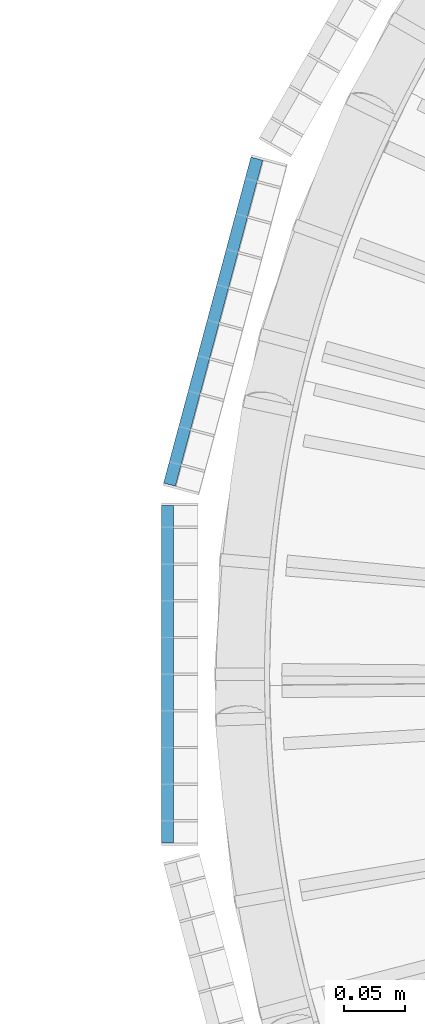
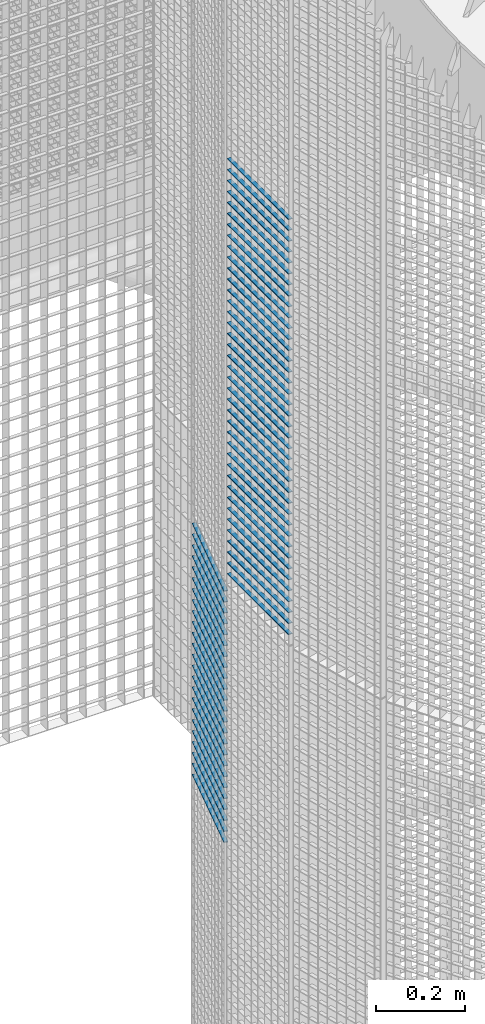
# One storey, part 199 of 1148: 63 beams, 2 elements without a shape of their own.
"""IFC2X3 building model written with IfcOpenShell, lengths in millimetres."""

from ifc_helpers import new_model, si_unit, frame, origin_with_axes, origin_2d_with_axis, place, context, subcontext, project, spatial, rectangle, extrude, material, type_object, element, aggregate, save


model = new_model("IFC2X3")

# Units and contexts
model_context = context("Model", 3, precision=1e-05, world=origin_with_axes())
body_context = subcontext(model_context, "Body", "Model", "MODEL_VIEW")
ifc_project = project(units=[si_unit("LENGTHUNIT", "METRE", prefix="MILLI"), si_unit("AREAUNIT", "SQUARE_METRE"), si_unit("VOLUMEUNIT", "CUBIC_METRE"), si_unit("MASSUNIT", "GRAM", prefix="KILO"), si_unit("TIMEUNIT", "SECOND"), si_unit("PLANEANGLEUNIT", "RADIAN"), si_unit("SOLIDANGLEUNIT", "STERADIAN"), si_unit("THERMODYNAMICTEMPERATUREUNIT", "DEGREE_CELSIUS"), si_unit("LUMINOUSINTENSITYUNIT", "LUMEN")], contexts=[model_context])

# Site, building, storey
site_placement = place(None, origin_with_axes())
site = spatial("IfcSite", under=ifc_project, at=site_placement, Name="Undefined", CompositionType="ELEMENT")
building_placement = place(site_placement, origin_with_axes())
building = spatial("IfcBuilding", under=site, at=building_placement, Name="Undefined", CompositionType="ELEMENT")
storey_placement = place(building_placement, origin_with_axes())
storey = spatial("IfcBuildingStorey", under=building, at=storey_placement, Name="Undefined", CompositionType="ELEMENT", Elevation=0.0)

# Assembly, beams
assembly_1_placement = place(storey_placement, origin_with_axes())
assembly_1 = element("IfcElementAssembly", 1, at=assembly_1_placement, inside=storey, Name="BORDURE", AssemblyPlace="NOTDEFINED", PredefinedType="NOTDEFINED")
ifc_material = material(Name="STEEL/S235JR")
beam_type = type_object("IfcBeamType", Name="PL2*10", PredefinedType="NOTDEFINED")
beam_1_placement = place(assembly_1_placement, frame((-1113.47999999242, 137.996003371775, 7170.0), z_axis=(-1.0, 0.0, 0.0), x_axis=(0.0, -1.0, 0.0)))
beam_1 = element("IfcBeam", 2, at=beam_1_placement, type_object=beam_type, material=ifc_material, Name="ENTRETOISE", context=body_context, shape_type="SweptSolid", body=[
    extrude(rectangle(XDim=2.0, YDim=10.0, at=origin_2d_with_axis()), frame((275.999999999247, 9.09494701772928e-13, 1.53210777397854e-14), z_axis=(-1.0, 0.0, 0.0), x_axis=(0.0, -1.0, 0.0)), (0.0, 0.0, 1.0), 276.0),
])
beam_2_placement = place(assembly_1_placement, frame((-1113.47999999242, 137.996003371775, 7140.0), z_axis=(-1.0, 0.0, 0.0), x_axis=(0.0, -1.0, 0.0)))
beam_2 = element("IfcBeam", 3, at=beam_2_placement, type_object=beam_type, material=ifc_material, Name="ENTRETOISE", context=body_context, shape_type="SweptSolid", body=[
    extrude(rectangle(XDim=2.0, YDim=10.0, at=origin_2d_with_axis()), frame((275.999999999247, 9.09494701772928e-13, 1.53210777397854e-14), z_axis=(-1.0, 0.0, 0.0), x_axis=(0.0, -1.0, 0.0)), (0.0, 0.0, 1.0), 276.0),
])
beam_3_placement = place(assembly_1_placement, frame((-1113.47999999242, 137.996003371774, 6720.0), z_axis=(-1.0, 0.0, 0.0), x_axis=(0.0, -1.0, 0.0)))
beam_3 = element("IfcBeam", 4, at=beam_3_placement, type_object=beam_type, material=ifc_material, Name="ENTRETOISE", context=body_context, shape_type="SweptSolid", body=[
    extrude(rectangle(XDim=2.0, YDim=10.0, at=origin_2d_with_axis()), frame((275.999999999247, 9.09494701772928e-13, 1.53210777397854e-14), z_axis=(-1.0, 0.0, 0.0), x_axis=(0.0, -1.0, 0.0)), (0.0, 0.0, 1.0), 276.0),
])
beam_4_placement = place(assembly_1_placement, frame((-1113.47999999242, 137.996003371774, 6690.0), z_axis=(-1.0, 0.0, 0.0), x_axis=(0.0, -1.0, 0.0)))
beam_4 = element("IfcBeam", 5, at=beam_4_placement, type_object=beam_type, material=ifc_material, Name="ENTRETOISE", context=body_context, shape_type="SweptSolid", body=[
    extrude(rectangle(XDim=2.0, YDim=10.0, at=origin_2d_with_axis()), frame((275.999999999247, 9.09494701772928e-13, 1.53210777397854e-14), z_axis=(-1.0, 0.0, 0.0), x_axis=(0.0, -1.0, 0.0)), (0.0, 0.0, 1.0), 276.0),
])
beam_5_placement = place(assembly_1_placement, frame((-1113.47999999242, 137.996003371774, 6750.0), z_axis=(-1.0, 0.0, 0.0), x_axis=(0.0, -1.0, 0.0)))
beam_5 = element("IfcBeam", 6, at=beam_5_placement, type_object=beam_type, material=ifc_material, Name="ENTRETOISE", context=body_context, shape_type="SweptSolid", body=[
    extrude(rectangle(XDim=2.0, YDim=10.0, at=origin_2d_with_axis()), frame((275.999999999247, 9.09494701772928e-13, 1.53210777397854e-14), z_axis=(-1.0, 0.0, 0.0), x_axis=(0.0, -1.0, 0.0)), (0.0, 0.0, 1.0), 276.0),
])
beam_6_placement = place(assembly_1_placement, frame((-1113.47999999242, 137.996003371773, 6660.0), z_axis=(-1.0, 0.0, 0.0), x_axis=(0.0, -1.0, 0.0)))
beam_6 = element("IfcBeam", 7, at=beam_6_placement, type_object=beam_type, material=ifc_material, Name="ENTRETOISE", context=body_context, shape_type="SweptSolid", body=[
    extrude(rectangle(XDim=2.0, YDim=10.0, at=origin_2d_with_axis()), frame((275.999999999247, 9.09494701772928e-13, 1.53210777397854e-14), z_axis=(-1.0, 0.0, 0.0), x_axis=(0.0, -1.0, 0.0)), (0.0, 0.0, 1.0), 276.0),
])
beam_7_placement = place(assembly_1_placement, frame((-1113.47999999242, 137.996003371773, 6630.0), z_axis=(-1.0, 0.0, 0.0), x_axis=(0.0, -1.0, 0.0)))
beam_7 = element("IfcBeam", 8, at=beam_7_placement, type_object=beam_type, material=ifc_material, Name="ENTRETOISE", context=body_context, shape_type="SweptSolid", body=[
    extrude(rectangle(XDim=2.0, YDim=10.0, at=origin_2d_with_axis()), frame((275.999999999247, 9.09494701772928e-13, 1.53210777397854e-14), z_axis=(-1.0, 0.0, 0.0), x_axis=(0.0, -1.0, 0.0)), (0.0, 0.0, 1.0), 276.0),
])
beam_8_placement = place(assembly_1_placement, frame((-1113.47999999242, 137.996003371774, 6780.0), z_axis=(-1.0, 0.0, 0.0), x_axis=(0.0, -1.0, 0.0)))
beam_8 = element("IfcBeam", 9, at=beam_8_placement, type_object=beam_type, material=ifc_material, Name="ENTRETOISE", context=body_context, shape_type="SweptSolid", body=[
    extrude(rectangle(XDim=2.0, YDim=10.0, at=origin_2d_with_axis()), frame((275.999999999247, 9.09494701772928e-13, 1.53210777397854e-14), z_axis=(-1.0, 0.0, 0.0), x_axis=(0.0, -1.0, 0.0)), (0.0, 0.0, 1.0), 276.0),
])
beam_9_placement = place(assembly_1_placement, frame((-1113.47999999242, 137.996003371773, 6600.0), z_axis=(-1.0, 0.0, 0.0), x_axis=(0.0, -1.0, 0.0)))
beam_9 = element("IfcBeam", 10, at=beam_9_placement, type_object=beam_type, material=ifc_material, Name="ENTRETOISE", context=body_context, shape_type="SweptSolid", body=[
    extrude(rectangle(XDim=2.0, YDim=10.0, at=origin_2d_with_axis()), frame((275.999999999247, 9.09494701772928e-13, 1.53210777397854e-14), z_axis=(-1.0, 0.0, 0.0), x_axis=(0.0, -1.0, 0.0)), (0.0, 0.0, 1.0), 276.0),
])
beam_10_placement = place(assembly_1_placement, frame((-1113.47999999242, 137.996003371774, 6810.0), z_axis=(-1.0, 0.0, 0.0), x_axis=(0.0, -1.0, 0.0)))
beam_10 = element("IfcBeam", 11, at=beam_10_placement, type_object=beam_type, material=ifc_material, Name="ENTRETOISE", context=body_context, shape_type="SweptSolid", body=[
    extrude(rectangle(XDim=2.0, YDim=10.0, at=origin_2d_with_axis()), frame((275.999999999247, 9.09494701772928e-13, 1.53210777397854e-14), z_axis=(-1.0, 0.0, 0.0), x_axis=(0.0, -1.0, 0.0)), (0.0, 0.0, 1.0), 276.0),
])
beam_11_placement = place(assembly_1_placement, frame((-1113.47999999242, 137.996003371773, 6570.0), z_axis=(-1.0, 0.0, 0.0), x_axis=(0.0, -1.0, 0.0)))
beam_11 = element("IfcBeam", 12, at=beam_11_placement, type_object=beam_type, material=ifc_material, Name="ENTRETOISE", context=body_context, shape_type="SweptSolid", body=[
    extrude(rectangle(XDim=2.0, YDim=10.0, at=origin_2d_with_axis()), frame((275.999999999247, 9.09494701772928e-13, 1.53210777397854e-14), z_axis=(-1.0, 0.0, 0.0), x_axis=(0.0, -1.0, 0.0)), (0.0, 0.0, 1.0), 276.0),
])
beam_12_placement = place(assembly_1_placement, frame((-1113.47999999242, 137.996003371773, 6540.0), z_axis=(-1.0, 0.0, 0.0), x_axis=(0.0, -1.0, 0.0)))
beam_12 = element("IfcBeam", 13, at=beam_12_placement, type_object=beam_type, material=ifc_material, Name="ENTRETOISE", context=body_context, shape_type="SweptSolid", body=[
    extrude(rectangle(XDim=2.0, YDim=10.0, at=origin_2d_with_axis()), frame((275.999999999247, 9.09494701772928e-13, 1.53210777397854e-14), z_axis=(-1.0, 0.0, 0.0), x_axis=(0.0, -1.0, 0.0)), (0.0, 0.0, 1.0), 276.0),
])
beam_13_placement = place(assembly_1_placement, frame((-1113.47999999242, 137.996003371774, 6840.0), z_axis=(-1.0, 0.0, 0.0), x_axis=(0.0, -1.0, 0.0)))
beam_13 = element("IfcBeam", 14, at=beam_13_placement, type_object=beam_type, material=ifc_material, Name="ENTRETOISE", context=body_context, shape_type="SweptSolid", body=[
    extrude(rectangle(XDim=2.0, YDim=10.0, at=origin_2d_with_axis()), frame((275.999999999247, 9.09494701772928e-13, 1.53210777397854e-14), z_axis=(-1.0, 0.0, 0.0), x_axis=(0.0, -1.0, 0.0)), (0.0, 0.0, 1.0), 276.0),
])
beam_14_placement = place(assembly_1_placement, frame((-1113.47999999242, 137.996003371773, 6510.0), z_axis=(-1.0, 0.0, 0.0), x_axis=(0.0, -1.0, 0.0)))
beam_14 = element("IfcBeam", 15, at=beam_14_placement, type_object=beam_type, material=ifc_material, Name="ENTRETOISE", context=body_context, shape_type="SweptSolid", body=[
    extrude(rectangle(XDim=2.0, YDim=10.0, at=origin_2d_with_axis()), frame((275.999999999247, 9.09494701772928e-13, 1.53210777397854e-14), z_axis=(-1.0, 0.0, 0.0), x_axis=(0.0, -1.0, 0.0)), (0.0, 0.0, 1.0), 276.0),
])
beam_15_placement = place(assembly_1_placement, frame((-1113.47999999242, 137.996003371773, 6480.0), z_axis=(-1.0, 0.0, 0.0), x_axis=(0.0, -1.0, 0.0)))
beam_15 = element("IfcBeam", 16, at=beam_15_placement, type_object=beam_type, material=ifc_material, Name="ENTRETOISE", context=body_context, shape_type="SweptSolid", body=[
    extrude(rectangle(XDim=2.0, YDim=10.0, at=origin_2d_with_axis()), frame((275.999999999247, 9.09494701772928e-13, 1.53210777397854e-14), z_axis=(-1.0, 0.0, 0.0), x_axis=(0.0, -1.0, 0.0)), (0.0, 0.0, 1.0), 276.0),
])
beam_16_placement = place(assembly_1_placement, frame((-1113.47999999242, 137.996003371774, 6870.0), z_axis=(-1.0, 0.0, 0.0), x_axis=(0.0, -1.0, 0.0)))
beam_16 = element("IfcBeam", 17, at=beam_16_placement, type_object=beam_type, material=ifc_material, Name="ENTRETOISE", context=body_context, shape_type="SweptSolid", body=[
    extrude(rectangle(XDim=2.0, YDim=10.0, at=origin_2d_with_axis()), frame((275.999999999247, 9.09494701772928e-13, 1.53210777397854e-14), z_axis=(-1.0, 0.0, 0.0), x_axis=(0.0, -1.0, 0.0)), (0.0, 0.0, 1.0), 276.0),
])
beam_17_placement = place(assembly_1_placement, frame((-1113.47999999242, 137.996003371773, 6450.0), z_axis=(-1.0, 0.0, 0.0), x_axis=(0.0, -1.0, 0.0)))
beam_17 = element("IfcBeam", 18, at=beam_17_placement, type_object=beam_type, material=ifc_material, Name="ENTRETOISE", context=body_context, shape_type="SweptSolid", body=[
    extrude(rectangle(XDim=2.0, YDim=10.0, at=origin_2d_with_axis()), frame((275.999999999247, 9.09494701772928e-13, 1.53210777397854e-14), z_axis=(-1.0, 0.0, 0.0), x_axis=(0.0, -1.0, 0.0)), (0.0, 0.0, 1.0), 276.0),
])
beam_18_placement = place(assembly_1_placement, frame((-1113.47999999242, 137.996003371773, 6420.0), z_axis=(-1.0, 0.0, 0.0), x_axis=(0.0, -1.0, 0.0)))
beam_18 = element("IfcBeam", 19, at=beam_18_placement, type_object=beam_type, material=ifc_material, Name="ENTRETOISE", context=body_context, shape_type="SweptSolid", body=[
    extrude(rectangle(XDim=2.0, YDim=10.0, at=origin_2d_with_axis()), frame((275.999999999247, 9.09494701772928e-13, 1.53210777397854e-14), z_axis=(-1.0, 0.0, 0.0), x_axis=(0.0, -1.0, 0.0)), (0.0, 0.0, 1.0), 276.0),
])
beam_19_placement = place(assembly_1_placement, frame((-1113.47999999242, 137.996003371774, 6900.0), z_axis=(-1.0, 0.0, 0.0), x_axis=(0.0, -1.0, 0.0)))
beam_19 = element("IfcBeam", 20, at=beam_19_placement, type_object=beam_type, material=ifc_material, Name="ENTRETOISE", context=body_context, shape_type="SweptSolid", body=[
    extrude(rectangle(XDim=2.0, YDim=10.0, at=origin_2d_with_axis()), frame((275.999999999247, 9.09494701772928e-13, 1.53210777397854e-14), z_axis=(-1.0, 0.0, 0.0), x_axis=(0.0, -1.0, 0.0)), (0.0, 0.0, 1.0), 276.0),
])
beam_20_placement = place(assembly_1_placement, frame((-1113.47999999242, 137.996003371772, 6390.0), z_axis=(-1.0, 0.0, 0.0), x_axis=(0.0, -1.0, 0.0)))
beam_20 = element("IfcBeam", 21, at=beam_20_placement, type_object=beam_type, material=ifc_material, Name="ENTRETOISE", context=body_context, shape_type="SweptSolid", body=[
    extrude(rectangle(XDim=2.0, YDim=10.0, at=origin_2d_with_axis()), frame((275.999999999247, 9.09494701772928e-13, 1.53210777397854e-14), z_axis=(-1.0, 0.0, 0.0), x_axis=(0.0, -1.0, 0.0)), (0.0, 0.0, 1.0), 276.0),
])
beam_21_placement = place(assembly_1_placement, frame((-1113.47999999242, 137.996003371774, 6930.0), z_axis=(-1.0, 0.0, 0.0), x_axis=(0.0, -1.0, 0.0)))
beam_21 = element("IfcBeam", 22, at=beam_21_placement, type_object=beam_type, material=ifc_material, Name="ENTRETOISE", context=body_context, shape_type="SweptSolid", body=[
    extrude(rectangle(XDim=2.0, YDim=10.0, at=origin_2d_with_axis()), frame((275.999999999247, 9.09494701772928e-13, 1.53210777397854e-14), z_axis=(-1.0, 0.0, 0.0), x_axis=(0.0, -1.0, 0.0)), (0.0, 0.0, 1.0), 276.0),
])
beam_22_placement = place(assembly_1_placement, frame((-1113.47999999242, 137.996003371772, 6360.0), z_axis=(-1.0, 0.0, 0.0), x_axis=(0.0, -1.0, 0.0)))
beam_22 = element("IfcBeam", 23, at=beam_22_placement, type_object=beam_type, material=ifc_material, Name="ENTRETOISE", context=body_context, shape_type="SweptSolid", body=[
    extrude(rectangle(XDim=2.0, YDim=10.0, at=origin_2d_with_axis()), frame((275.999999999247, 9.09494701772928e-13, 1.53210777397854e-14), z_axis=(-1.0, 0.0, 0.0), x_axis=(0.0, -1.0, 0.0)), (0.0, 0.0, 1.0), 276.0),
])
beam_23_placement = place(assembly_1_placement, frame((-1113.47999999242, 137.996003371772, 6330.0), z_axis=(-1.0, 0.0, 0.0), x_axis=(0.0, -1.0, 0.0)))
beam_23 = element("IfcBeam", 24, at=beam_23_placement, type_object=beam_type, material=ifc_material, Name="ENTRETOISE", context=body_context, shape_type="SweptSolid", body=[
    extrude(rectangle(XDim=2.0, YDim=10.0, at=origin_2d_with_axis()), frame((275.999999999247, 9.09494701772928e-13, 1.53210777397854e-14), z_axis=(-1.0, 0.0, 0.0), x_axis=(0.0, -1.0, 0.0)), (0.0, 0.0, 1.0), 276.0),
])
beam_24_placement = place(assembly_1_placement, frame((-1113.47999999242, 137.996003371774, 6960.0), z_axis=(-1.0, 0.0, 0.0), x_axis=(0.0, -1.0, 0.0)))
beam_24 = element("IfcBeam", 25, at=beam_24_placement, type_object=beam_type, material=ifc_material, Name="ENTRETOISE", context=body_context, shape_type="SweptSolid", body=[
    extrude(rectangle(XDim=2.0, YDim=10.0, at=origin_2d_with_axis()), frame((275.999999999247, 9.09494701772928e-13, 1.53210777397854e-14), z_axis=(-1.0, 0.0, 0.0), x_axis=(0.0, -1.0, 0.0)), (0.0, 0.0, 1.0), 276.0),
])
beam_25_placement = place(assembly_1_placement, frame((-1113.47999999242, 137.996003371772, 6300.0), z_axis=(-1.0, 0.0, 0.0), x_axis=(0.0, -1.0, 0.0)))
beam_25 = element("IfcBeam", 26, at=beam_25_placement, type_object=beam_type, material=ifc_material, Name="ENTRETOISE", context=body_context, shape_type="SweptSolid", body=[
    extrude(rectangle(XDim=2.0, YDim=10.0, at=origin_2d_with_axis()), frame((275.999999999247, 9.09494701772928e-13, 1.53210777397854e-14), z_axis=(-1.0, 0.0, 0.0), x_axis=(0.0, -1.0, 0.0)), (0.0, 0.0, 1.0), 276.0),
])
beam_26_placement = place(assembly_1_placement, frame((-1113.47999999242, 137.996003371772, 6270.0), z_axis=(-1.0, 0.0, 0.0), x_axis=(0.0, -1.0, 0.0)))
beam_26 = element("IfcBeam", 27, at=beam_26_placement, type_object=beam_type, material=ifc_material, Name="ENTRETOISE", context=body_context, shape_type="SweptSolid", body=[
    extrude(rectangle(XDim=2.0, YDim=10.0, at=origin_2d_with_axis()), frame((275.999999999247, 9.09494701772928e-13, 1.53210777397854e-14), z_axis=(-1.0, 0.0, 0.0), x_axis=(0.0, -1.0, 0.0)), (0.0, 0.0, 1.0), 276.0),
])
beam_27_placement = place(assembly_1_placement, frame((-1113.47999999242, 137.996003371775, 6990.0), z_axis=(-1.0, 0.0, 0.0), x_axis=(0.0, -1.0, 0.0)))
beam_27 = element("IfcBeam", 28, at=beam_27_placement, type_object=beam_type, material=ifc_material, Name="ENTRETOISE", context=body_context, shape_type="SweptSolid", body=[
    extrude(rectangle(XDim=2.0, YDim=10.0, at=origin_2d_with_axis()), frame((275.999999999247, 9.09494701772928e-13, 1.53210777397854e-14), z_axis=(-1.0, 0.0, 0.0), x_axis=(0.0, -1.0, 0.0)), (0.0, 0.0, 1.0), 276.0),
])
beam_28_placement = place(assembly_1_placement, frame((-1113.47999999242, 137.996003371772, 6240.0), z_axis=(-1.0, 0.0, 0.0), x_axis=(0.0, -1.0, 0.0)))
beam_28 = element("IfcBeam", 29, at=beam_28_placement, type_object=beam_type, material=ifc_material, Name="ENTRETOISE", context=body_context, shape_type="SweptSolid", body=[
    extrude(rectangle(XDim=2.0, YDim=10.0, at=origin_2d_with_axis()), frame((275.999999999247, 9.09494701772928e-13, 1.53210777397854e-14), z_axis=(-1.0, 0.0, 0.0), x_axis=(0.0, -1.0, 0.0)), (0.0, 0.0, 1.0), 276.0),
])
beam_29_placement = place(assembly_1_placement, frame((-1113.47999999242, 137.996003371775, 7020.0), z_axis=(-1.0, 0.0, 0.0), x_axis=(0.0, -1.0, 0.0)))
beam_29 = element("IfcBeam", 30, at=beam_29_placement, type_object=beam_type, material=ifc_material, Name="ENTRETOISE", context=body_context, shape_type="SweptSolid", body=[
    extrude(rectangle(XDim=2.0, YDim=10.0, at=origin_2d_with_axis()), frame((275.999999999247, 9.09494701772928e-13, 1.53210777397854e-14), z_axis=(-1.0, 0.0, 0.0), x_axis=(0.0, -1.0, 0.0)), (0.0, 0.0, 1.0), 276.0),
])
beam_30_placement = place(assembly_1_placement, frame((-1113.47999999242, 137.996003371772, 6210.0), z_axis=(-1.0, 0.0, 0.0), x_axis=(0.0, -1.0, 0.0)))
beam_30 = element("IfcBeam", 31, at=beam_30_placement, type_object=beam_type, material=ifc_material, Name="ENTRETOISE", context=body_context, shape_type="SweptSolid", body=[
    extrude(rectangle(XDim=2.0, YDim=10.0, at=origin_2d_with_axis()), frame((275.999999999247, 9.09494701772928e-13, 1.53210777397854e-14), z_axis=(-1.0, 0.0, 0.0), x_axis=(0.0, -1.0, 0.0)), (0.0, 0.0, 1.0), 276.0),
])
beam_31_placement = place(assembly_1_placement, frame((-1113.47999999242, 137.996003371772, 6180.0), z_axis=(-1.0, 0.0, 0.0), x_axis=(0.0, -1.0, 0.0)))
beam_31 = element("IfcBeam", 32, at=beam_31_placement, type_object=beam_type, material=ifc_material, Name="ENTRETOISE", context=body_context, shape_type="SweptSolid", body=[
    extrude(rectangle(XDim=2.0, YDim=10.0, at=origin_2d_with_axis()), frame((275.999999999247, 9.09494701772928e-13, 1.53210777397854e-14), z_axis=(-1.0, 0.0, 0.0), x_axis=(0.0, -1.0, 0.0)), (0.0, 0.0, 1.0), 276.0),
])
beam_32_placement = place(assembly_1_placement, frame((-1113.47999999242, 137.996003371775, 7050.0), z_axis=(-1.0, 0.0, 0.0), x_axis=(0.0, -1.0, 0.0)))
beam_32 = element("IfcBeam", 33, at=beam_32_placement, type_object=beam_type, material=ifc_material, Name="ENTRETOISE", context=body_context, shape_type="SweptSolid", body=[
    extrude(rectangle(XDim=2.0, YDim=10.0, at=origin_2d_with_axis()), frame((275.999999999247, 9.09494701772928e-13, 1.53210777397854e-14), z_axis=(-1.0, 0.0, 0.0), x_axis=(0.0, -1.0, 0.0)), (0.0, 0.0, 1.0), 276.0),
])
beam_33_placement = place(assembly_1_placement, frame((-1113.47999999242, 137.996003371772, 6150.0), z_axis=(-1.0, 0.0, 0.0), x_axis=(0.0, -1.0, 0.0)))
beam_33 = element("IfcBeam", 34, at=beam_33_placement, type_object=beam_type, material=ifc_material, Name="ENTRETOISE", context=body_context, shape_type="SweptSolid", body=[
    extrude(rectangle(XDim=2.0, YDim=10.0, at=origin_2d_with_axis()), frame((275.999999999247, 9.09494701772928e-13, 1.53210777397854e-14), z_axis=(-1.0, 0.0, 0.0), x_axis=(0.0, -1.0, 0.0)), (0.0, 0.0, 1.0), 276.0),
])
beam_34_placement = place(assembly_1_placement, frame((-1113.47999999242, 137.996003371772, 6120.0), z_axis=(-1.0, 0.0, 0.0), x_axis=(0.0, -1.0, 0.0)))
beam_34 = element("IfcBeam", 35, at=beam_34_placement, type_object=beam_type, material=ifc_material, Name="ENTRETOISE", context=body_context, shape_type="SweptSolid", body=[
    extrude(rectangle(XDim=2.0, YDim=10.0, at=origin_2d_with_axis()), frame((275.999999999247, 9.09494701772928e-13, 1.53210777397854e-14), z_axis=(-1.0, 0.0, 0.0), x_axis=(0.0, -1.0, 0.0)), (0.0, 0.0, 1.0), 276.0),
])
beam_35_placement = place(assembly_1_placement, frame((-1113.47999999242, 137.996003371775, 7080.0), z_axis=(-1.0, 0.0, 0.0), x_axis=(0.0, -1.0, 0.0)))
beam_35 = element("IfcBeam", 36, at=beam_35_placement, type_object=beam_type, material=ifc_material, Name="ENTRETOISE", context=body_context, shape_type="SweptSolid", body=[
    extrude(rectangle(XDim=2.0, YDim=10.0, at=origin_2d_with_axis()), frame((275.999999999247, 9.09494701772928e-13, 1.53210777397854e-14), z_axis=(-1.0, 0.0, 0.0), x_axis=(0.0, -1.0, 0.0)), (0.0, 0.0, 1.0), 276.0),
])
beam_36_placement = place(assembly_1_placement, frame((-1113.47999999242, 137.996003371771, 6090.0), z_axis=(-1.0, 0.0, 0.0), x_axis=(0.0, -1.0, 0.0)))
beam_36 = element("IfcBeam", 37, at=beam_36_placement, type_object=beam_type, material=ifc_material, Name="ENTRETOISE", context=body_context, shape_type="SweptSolid", body=[
    extrude(rectangle(XDim=2.0, YDim=10.0, at=origin_2d_with_axis()), frame((275.999999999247, 9.09494701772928e-13, 1.53210777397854e-14), z_axis=(-1.0, 0.0, 0.0), x_axis=(0.0, -1.0, 0.0)), (0.0, 0.0, 1.0), 276.0),
])
beam_37_placement = place(assembly_1_placement, frame((-1113.47999999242, 137.996003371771, 6060.0), z_axis=(-1.0, 0.0, 0.0), x_axis=(0.0, -1.0, 0.0)))
beam_37 = element("IfcBeam", 38, at=beam_37_placement, type_object=beam_type, material=ifc_material, Name="ENTRETOISE", context=body_context, shape_type="SweptSolid", body=[
    extrude(rectangle(XDim=2.0, YDim=10.0, at=origin_2d_with_axis()), frame((275.999999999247, 9.09494701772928e-13, 1.53210777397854e-14), z_axis=(-1.0, 0.0, 0.0), x_axis=(0.0, -1.0, 0.0)), (0.0, 0.0, 1.0), 276.0),
])
beam_38_placement = place(assembly_1_placement, frame((-1113.47999999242, 137.996003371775, 7110.0), z_axis=(-1.0, 0.0, 0.0), x_axis=(0.0, -1.0, 0.0)))
beam_38 = element("IfcBeam", 39, at=beam_38_placement, type_object=beam_type, material=ifc_material, Name="ENTRETOISE", context=body_context, shape_type="SweptSolid", body=[
    extrude(rectangle(XDim=2.0, YDim=10.0, at=origin_2d_with_axis()), frame((275.999999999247, 9.09494701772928e-13, 1.53210777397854e-14), z_axis=(-1.0, 0.0, 0.0), x_axis=(0.0, -1.0, 0.0)), (0.0, 0.0, 1.0), 276.0),
])
beam_39_placement = place(assembly_1_placement, frame((-1113.47999999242, 137.99600337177, 6030.0), z_axis=(-1.0, 0.0, 0.0), x_axis=(0.0, -1.0, 0.0)))
beam_39 = element("IfcBeam", 40, at=beam_39_placement, type_object=beam_type, material=ifc_material, Name="ENTRETOISE", context=body_context, shape_type="SweptSolid", body=[
    extrude(rectangle(XDim=2.0, YDim=10.0, at=origin_2d_with_axis()), frame((275.999999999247, 9.09494701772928e-13, 1.53210777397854e-14), z_axis=(-1.0, 0.0, 0.0), x_axis=(0.0, -1.0, 0.0)), (0.0, 0.0, 1.0), 276.0),
])
aggregate(assembly_1, [beam_1, beam_2, beam_3, beam_4, beam_5, beam_6, beam_7, beam_8, beam_9, beam_10, beam_11, beam_12, beam_13, beam_14, beam_15, beam_16, beam_17, beam_18, beam_19, beam_20, beam_21, beam_22, beam_23, beam_24, beam_25, beam_26, beam_27, beam_28, beam_29, beam_30, beam_31, beam_32, beam_33, beam_34, beam_35, beam_36, beam_37, beam_38, beam_39])

assembly_2_placement = place(storey_placement, origin_with_axes())
assembly_2 = element("IfcElementAssembly", 41, at=assembly_2_placement, inside=storey, Name="BORDURE", AssemblyPlace="NOTDEFINED", PredefinedType="NOTDEFINED")
beam_40_placement = place(assembly_2_placement, frame((-1040.30888419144, 421.61803829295, 5970.0), z_axis=(-0.965925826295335, 0.258819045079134, 0.0), x_axis=(-0.258819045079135, -0.965925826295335, 0.0)))
beam_40 = element("IfcBeam", 42, at=beam_40_placement, type_object=beam_type, material=ifc_material, Name="ENTRETOISE", context=body_context, shape_type="SweptSolid", body=[
    extrude(rectangle(XDim=2.0, YDim=10.0, at=origin_2d_with_axis()), frame((275.999999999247, 9.09494701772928e-13, 1.53210777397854e-14), z_axis=(-1.0, 0.0, 0.0), x_axis=(0.0, -1.0, 0.0)), (0.0, 0.0, 1.0), 276.0),
])
beam_41_placement = place(assembly_2_placement, frame((-1040.30888419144, 421.61803829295, 5940.0), z_axis=(-0.965925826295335, 0.258819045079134, 0.0), x_axis=(-0.258819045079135, -0.965925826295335, 0.0)))
beam_41 = element("IfcBeam", 43, at=beam_41_placement, type_object=beam_type, material=ifc_material, Name="ENTRETOISE", context=body_context, shape_type="SweptSolid", body=[
    extrude(rectangle(XDim=2.0, YDim=10.0, at=origin_2d_with_axis()), frame((275.999999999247, 9.09494701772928e-13, 1.53210777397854e-14), z_axis=(-1.0, 0.0, 0.0), x_axis=(0.0, -1.0, 0.0)), (0.0, 0.0, 1.0), 276.0),
])
beam_42_placement = place(assembly_2_placement, frame((-1040.30888419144, 421.61803829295, 5910.0), z_axis=(-0.965925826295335, 0.258819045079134, 0.0), x_axis=(-0.258819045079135, -0.965925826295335, 0.0)))
beam_42 = element("IfcBeam", 44, at=beam_42_placement, type_object=beam_type, material=ifc_material, Name="ENTRETOISE", context=body_context, shape_type="SweptSolid", body=[
    extrude(rectangle(XDim=2.0, YDim=10.0, at=origin_2d_with_axis()), frame((275.999999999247, 9.09494701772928e-13, 1.53210777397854e-14), z_axis=(-1.0, 0.0, 0.0), x_axis=(0.0, -1.0, 0.0)), (0.0, 0.0, 1.0), 276.0),
])
beam_43_placement = place(assembly_2_placement, frame((-1040.30888419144, 421.61803829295, 5880.0), z_axis=(-0.965925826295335, 0.258819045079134, 0.0), x_axis=(-0.258819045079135, -0.965925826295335, 0.0)))
beam_43 = element("IfcBeam", 45, at=beam_43_placement, type_object=beam_type, material=ifc_material, Name="ENTRETOISE", context=body_context, shape_type="SweptSolid", body=[
    extrude(rectangle(XDim=2.0, YDim=10.0, at=origin_2d_with_axis()), frame((275.999999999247, 9.09494701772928e-13, 1.53210777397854e-14), z_axis=(-1.0, 0.0, 0.0), x_axis=(0.0, -1.0, 0.0)), (0.0, 0.0, 1.0), 276.0),
])
beam_44_placement = place(assembly_2_placement, frame((-1040.30888419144, 421.61803829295, 5850.0), z_axis=(-0.965925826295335, 0.258819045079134, 0.0), x_axis=(-0.258819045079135, -0.965925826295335, 0.0)))
beam_44 = element("IfcBeam", 46, at=beam_44_placement, type_object=beam_type, material=ifc_material, Name="ENTRETOISE", context=body_context, shape_type="SweptSolid", body=[
    extrude(rectangle(XDim=2.0, YDim=10.0, at=origin_2d_with_axis()), frame((275.999999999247, 9.09494701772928e-13, 1.53210777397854e-14), z_axis=(-1.0, 0.0, 0.0), x_axis=(0.0, -1.0, 0.0)), (0.0, 0.0, 1.0), 276.0),
])
beam_45_placement = place(assembly_2_placement, frame((-1040.30888419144, 421.61803829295, 5820.0), z_axis=(-0.965925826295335, 0.258819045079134, 0.0), x_axis=(-0.258819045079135, -0.965925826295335, 0.0)))
beam_45 = element("IfcBeam", 47, at=beam_45_placement, type_object=beam_type, material=ifc_material, Name="ENTRETOISE", context=body_context, shape_type="SweptSolid", body=[
    extrude(rectangle(XDim=2.0, YDim=10.0, at=origin_2d_with_axis()), frame((275.999999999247, 9.09494701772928e-13, 1.53210777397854e-14), z_axis=(-1.0, 0.0, 0.0), x_axis=(0.0, -1.0, 0.0)), (0.0, 0.0, 1.0), 276.0),
])
beam_46_placement = place(assembly_2_placement, frame((-1040.30888419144, 421.61803829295, 5790.0), z_axis=(-0.965925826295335, 0.258819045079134, 0.0), x_axis=(-0.258819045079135, -0.965925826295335, 0.0)))
beam_46 = element("IfcBeam", 48, at=beam_46_placement, type_object=beam_type, material=ifc_material, Name="ENTRETOISE", context=body_context, shape_type="SweptSolid", body=[
    extrude(rectangle(XDim=2.0, YDim=10.0, at=origin_2d_with_axis()), frame((275.999999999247, 9.09494701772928e-13, 1.53210777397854e-14), z_axis=(-1.0, 0.0, 0.0), x_axis=(0.0, -1.0, 0.0)), (0.0, 0.0, 1.0), 276.0),
])
beam_47_placement = place(assembly_2_placement, frame((-1040.30888419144, 421.61803829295, 5760.0), z_axis=(-0.965925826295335, 0.258819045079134, 0.0), x_axis=(-0.258819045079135, -0.965925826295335, 0.0)))
beam_47 = element("IfcBeam", 49, at=beam_47_placement, type_object=beam_type, material=ifc_material, Name="ENTRETOISE", context=body_context, shape_type="SweptSolid", body=[
    extrude(rectangle(XDim=2.0, YDim=10.0, at=origin_2d_with_axis()), frame((275.999999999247, 9.09494701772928e-13, 1.53210777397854e-14), z_axis=(-1.0, 0.0, 0.0), x_axis=(0.0, -1.0, 0.0)), (0.0, 0.0, 1.0), 276.0),
])
beam_48_placement = place(assembly_2_placement, frame((-1040.30888419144, 421.61803829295, 5730.0), z_axis=(-0.965925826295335, 0.258819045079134, 0.0), x_axis=(-0.258819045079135, -0.965925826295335, 0.0)))
beam_48 = element("IfcBeam", 50, at=beam_48_placement, type_object=beam_type, material=ifc_material, Name="ENTRETOISE", context=body_context, shape_type="SweptSolid", body=[
    extrude(rectangle(XDim=2.0, YDim=10.0, at=origin_2d_with_axis()), frame((275.999999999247, 9.09494701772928e-13, 1.53210777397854e-14), z_axis=(-1.0, 0.0, 0.0), x_axis=(0.0, -1.0, 0.0)), (0.0, 0.0, 1.0), 276.0),
])
beam_49_placement = place(assembly_2_placement, frame((-1040.30888419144, 421.618038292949, 5700.0), z_axis=(-0.965925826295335, 0.258819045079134, 0.0), x_axis=(-0.258819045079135, -0.965925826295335, 0.0)))
beam_49 = element("IfcBeam", 51, at=beam_49_placement, type_object=beam_type, material=ifc_material, Name="ENTRETOISE", context=body_context, shape_type="SweptSolid", body=[
    extrude(rectangle(XDim=2.0, YDim=10.0, at=origin_2d_with_axis()), frame((275.999999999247, 9.09494701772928e-13, 1.53210777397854e-14), z_axis=(-1.0, 0.0, 0.0), x_axis=(0.0, -1.0, 0.0)), (0.0, 0.0, 1.0), 276.0),
])
beam_50_placement = place(assembly_2_placement, frame((-1040.30888419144, 421.618038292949, 5670.0), z_axis=(-0.965925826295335, 0.258819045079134, 0.0), x_axis=(-0.258819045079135, -0.965925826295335, 0.0)))
beam_50 = element("IfcBeam", 52, at=beam_50_placement, type_object=beam_type, material=ifc_material, Name="ENTRETOISE", context=body_context, shape_type="SweptSolid", body=[
    extrude(rectangle(XDim=2.0, YDim=10.0, at=origin_2d_with_axis()), frame((275.999999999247, 9.09494701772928e-13, 1.53210777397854e-14), z_axis=(-1.0, 0.0, 0.0), x_axis=(0.0, -1.0, 0.0)), (0.0, 0.0, 1.0), 276.0),
])
beam_51_placement = place(assembly_2_placement, frame((-1040.30888419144, 421.618038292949, 5640.0), z_axis=(-0.965925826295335, 0.258819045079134, 0.0), x_axis=(-0.258819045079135, -0.965925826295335, 0.0)))
beam_51 = element("IfcBeam", 53, at=beam_51_placement, type_object=beam_type, material=ifc_material, Name="ENTRETOISE", context=body_context, shape_type="SweptSolid", body=[
    extrude(rectangle(XDim=2.0, YDim=10.0, at=origin_2d_with_axis()), frame((275.999999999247, 9.09494701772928e-13, 1.53210777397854e-14), z_axis=(-1.0, 0.0, 0.0), x_axis=(0.0, -1.0, 0.0)), (0.0, 0.0, 1.0), 276.0),
])
beam_52_placement = place(assembly_2_placement, frame((-1040.30888419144, 421.618038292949, 5610.0), z_axis=(-0.965925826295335, 0.258819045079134, 0.0), x_axis=(-0.258819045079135, -0.965925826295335, 0.0)))
beam_52 = element("IfcBeam", 54, at=beam_52_placement, type_object=beam_type, material=ifc_material, Name="ENTRETOISE", context=body_context, shape_type="SweptSolid", body=[
    extrude(rectangle(XDim=2.0, YDim=10.0, at=origin_2d_with_axis()), frame((275.999999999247, 9.09494701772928e-13, 1.53210777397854e-14), z_axis=(-1.0, 0.0, 0.0), x_axis=(0.0, -1.0, 0.0)), (0.0, 0.0, 1.0), 276.0),
])
beam_53_placement = place(assembly_2_placement, frame((-1040.30888419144, 421.618038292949, 5580.0), z_axis=(-0.965925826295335, 0.258819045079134, 0.0), x_axis=(-0.258819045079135, -0.965925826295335, 0.0)))
beam_53 = element("IfcBeam", 55, at=beam_53_placement, type_object=beam_type, material=ifc_material, Name="ENTRETOISE", context=body_context, shape_type="SweptSolid", body=[
    extrude(rectangle(XDim=2.0, YDim=10.0, at=origin_2d_with_axis()), frame((275.999999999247, 9.09494701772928e-13, 1.53210777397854e-14), z_axis=(-1.0, 0.0, 0.0), x_axis=(0.0, -1.0, 0.0)), (0.0, 0.0, 1.0), 276.0),
])
beam_54_placement = place(assembly_2_placement, frame((-1040.30888419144, 421.618038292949, 5550.0), z_axis=(-0.965925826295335, 0.258819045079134, 0.0), x_axis=(-0.258819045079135, -0.965925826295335, 0.0)))
beam_54 = element("IfcBeam", 56, at=beam_54_placement, type_object=beam_type, material=ifc_material, Name="ENTRETOISE", context=body_context, shape_type="SweptSolid", body=[
    extrude(rectangle(XDim=2.0, YDim=10.0, at=origin_2d_with_axis()), frame((275.999999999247, 9.09494701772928e-13, 1.53210777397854e-14), z_axis=(-1.0, 0.0, 0.0), x_axis=(0.0, -1.0, 0.0)), (0.0, 0.0, 1.0), 276.0),
])
beam_55_placement = place(assembly_2_placement, frame((-1040.30888419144, 421.618038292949, 5520.0), z_axis=(-0.965925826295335, 0.258819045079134, 0.0), x_axis=(-0.258819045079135, -0.965925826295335, 0.0)))
beam_55 = element("IfcBeam", 57, at=beam_55_placement, type_object=beam_type, material=ifc_material, Name="ENTRETOISE", context=body_context, shape_type="SweptSolid", body=[
    extrude(rectangle(XDim=2.0, YDim=10.0, at=origin_2d_with_axis()), frame((275.999999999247, 9.09494701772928e-13, 1.53210777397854e-14), z_axis=(-1.0, 0.0, 0.0), x_axis=(0.0, -1.0, 0.0)), (0.0, 0.0, 1.0), 276.0),
])
beam_56_placement = place(assembly_2_placement, frame((-1040.30888419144, 421.618038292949, 5490.0), z_axis=(-0.965925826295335, 0.258819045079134, 0.0), x_axis=(-0.258819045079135, -0.965925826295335, 0.0)))
beam_56 = element("IfcBeam", 58, at=beam_56_placement, type_object=beam_type, material=ifc_material, Name="ENTRETOISE", context=body_context, shape_type="SweptSolid", body=[
    extrude(rectangle(XDim=2.0, YDim=10.0, at=origin_2d_with_axis()), frame((275.999999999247, 9.09494701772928e-13, 1.53210777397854e-14), z_axis=(-1.0, 0.0, 0.0), x_axis=(0.0, -1.0, 0.0)), (0.0, 0.0, 1.0), 276.0),
])
beam_57_placement = place(assembly_2_placement, frame((-1040.30888419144, 421.618038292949, 5460.0), z_axis=(-0.965925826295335, 0.258819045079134, 0.0), x_axis=(-0.258819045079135, -0.965925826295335, 0.0)))
beam_57 = element("IfcBeam", 59, at=beam_57_placement, type_object=beam_type, material=ifc_material, Name="ENTRETOISE", context=body_context, shape_type="SweptSolid", body=[
    extrude(rectangle(XDim=2.0, YDim=10.0, at=origin_2d_with_axis()), frame((275.999999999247, 9.09494701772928e-13, 1.53210777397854e-14), z_axis=(-1.0, 0.0, 0.0), x_axis=(0.0, -1.0, 0.0)), (0.0, 0.0, 1.0), 276.0),
])
beam_58_placement = place(assembly_2_placement, frame((-1040.30888419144, 421.618038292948, 5430.0), z_axis=(-0.965925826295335, 0.258819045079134, 0.0), x_axis=(-0.258819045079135, -0.965925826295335, 0.0)))
beam_58 = element("IfcBeam", 60, at=beam_58_placement, type_object=beam_type, material=ifc_material, Name="ENTRETOISE", context=body_context, shape_type="SweptSolid", body=[
    extrude(rectangle(XDim=2.0, YDim=10.0, at=origin_2d_with_axis()), frame((275.999999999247, 9.09494701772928e-13, 1.53210777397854e-14), z_axis=(-1.0, 0.0, 0.0), x_axis=(0.0, -1.0, 0.0)), (0.0, 0.0, 1.0), 276.0),
])
beam_59_placement = place(assembly_2_placement, frame((-1040.30888419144, 421.618038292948, 5400.0), z_axis=(-0.965925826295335, 0.258819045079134, 0.0), x_axis=(-0.258819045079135, -0.965925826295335, 0.0)))
beam_59 = element("IfcBeam", 61, at=beam_59_placement, type_object=beam_type, material=ifc_material, Name="ENTRETOISE", context=body_context, shape_type="SweptSolid", body=[
    extrude(rectangle(XDim=2.0, YDim=10.0, at=origin_2d_with_axis()), frame((275.999999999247, 9.09494701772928e-13, 1.53210777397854e-14), z_axis=(-1.0, 0.0, 0.0), x_axis=(0.0, -1.0, 0.0)), (0.0, 0.0, 1.0), 276.0),
])
beam_60_placement = place(assembly_2_placement, frame((-1040.30888419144, 421.618038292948, 5370.0), z_axis=(-0.965925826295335, 0.258819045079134, 0.0), x_axis=(-0.258819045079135, -0.965925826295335, 0.0)))
beam_60 = element("IfcBeam", 62, at=beam_60_placement, type_object=beam_type, material=ifc_material, Name="ENTRETOISE", context=body_context, shape_type="SweptSolid", body=[
    extrude(rectangle(XDim=2.0, YDim=10.0, at=origin_2d_with_axis()), frame((275.999999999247, 9.09494701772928e-13, 1.53210777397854e-14), z_axis=(-1.0, 0.0, 0.0), x_axis=(0.0, -1.0, 0.0)), (0.0, 0.0, 1.0), 276.0),
])
beam_61_placement = place(assembly_2_placement, frame((-1040.30888419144, 421.618038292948, 5340.0), z_axis=(-0.965925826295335, 0.258819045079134, 0.0), x_axis=(-0.258819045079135, -0.965925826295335, 0.0)))
beam_61 = element("IfcBeam", 63, at=beam_61_placement, type_object=beam_type, material=ifc_material, Name="ENTRETOISE", context=body_context, shape_type="SweptSolid", body=[
    extrude(rectangle(XDim=2.0, YDim=10.0, at=origin_2d_with_axis()), frame((275.999999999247, 9.09494701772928e-13, 1.53210777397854e-14), z_axis=(-1.0, 0.0, 0.0), x_axis=(0.0, -1.0, 0.0)), (0.0, 0.0, 1.0), 276.0),
])
beam_62_placement = place(assembly_2_placement, frame((-1040.30888419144, 421.618038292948, 5310.0), z_axis=(-0.965925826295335, 0.258819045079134, 0.0), x_axis=(-0.258819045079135, -0.965925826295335, 0.0)))
beam_62 = element("IfcBeam", 64, at=beam_62_placement, type_object=beam_type, material=ifc_material, Name="ENTRETOISE", context=body_context, shape_type="SweptSolid", body=[
    extrude(rectangle(XDim=2.0, YDim=10.0, at=origin_2d_with_axis()), frame((275.999999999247, 9.09494701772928e-13, 1.53210777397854e-14), z_axis=(-1.0, 0.0, 0.0), x_axis=(0.0, -1.0, 0.0)), (0.0, 0.0, 1.0), 276.0),
])
beam_63_placement = place(assembly_2_placement, frame((-1040.30888419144, 421.618038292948, 5280.0), z_axis=(-0.965925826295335, 0.258819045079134, 0.0), x_axis=(-0.258819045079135, -0.965925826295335, 0.0)))
beam_63 = element("IfcBeam", 65, at=beam_63_placement, type_object=beam_type, material=ifc_material, Name="ENTRETOISE", context=body_context, shape_type="SweptSolid", body=[
    extrude(rectangle(XDim=2.0, YDim=10.0, at=origin_2d_with_axis()), frame((275.999999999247, 9.09494701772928e-13, 1.53210777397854e-14), z_axis=(-1.0, 0.0, 0.0), x_axis=(0.0, -1.0, 0.0)), (0.0, 0.0, 1.0), 276.0),
])
aggregate(assembly_2, [beam_40, beam_41, beam_42, beam_43, beam_44, beam_45, beam_46, beam_47, beam_48, beam_49, beam_50, beam_51, beam_52, beam_53, beam_54, beam_55, beam_56, beam_57, beam_58, beam_59, beam_60, beam_61, beam_62, beam_63])

save(model, "model.ifc")
